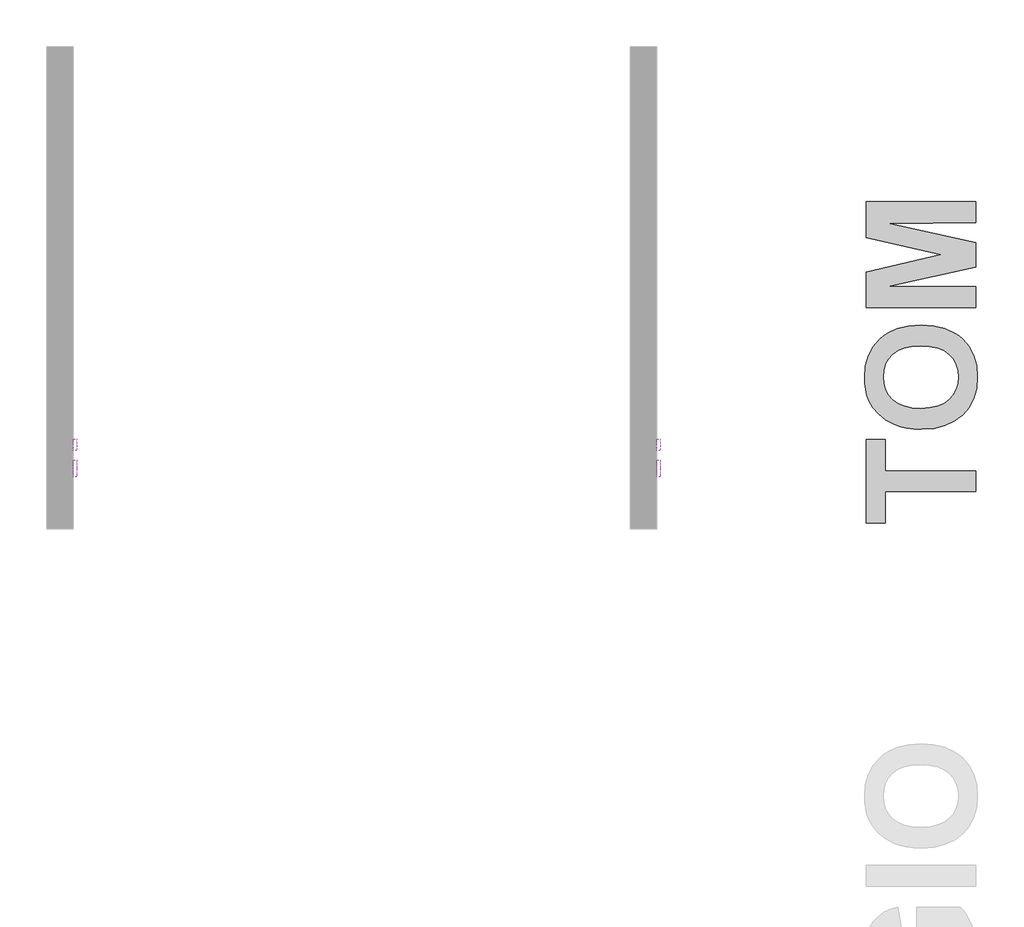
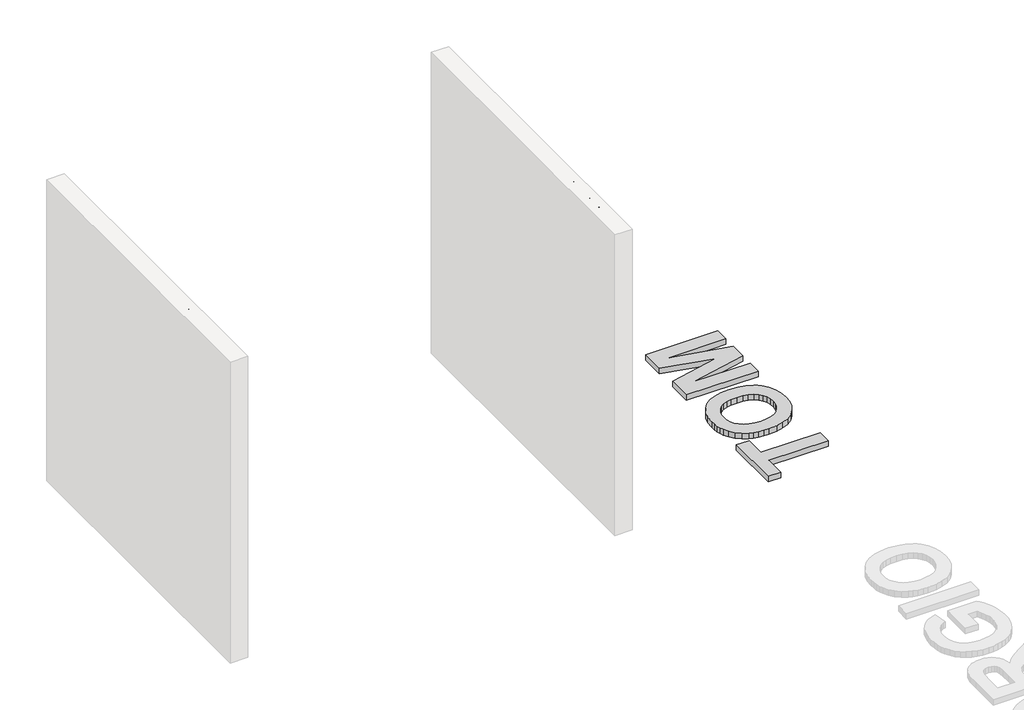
# One storey, part 4 of 6: 5 proxies.
"""IFC4 building model written with IfcOpenShell, lengths in millimetres."""

from ifc_helpers import new_model, si_unit, frame, origin, origin_with_axes, place, context, project, spatial, polyline, outline, extrude, element, save

model = new_model("IFC4")

# Units and contexts
model_context = context("Model", 3, world=origin())
ifc_project = project(units=[si_unit("LENGTHUNIT", "METRE", prefix="MILLI")], contexts=[model_context])

# Site, building, storey
site = spatial("IfcSite", under=ifc_project)
building = spatial("IfcBuilding", under=site)
storey = spatial("IfcBuildingStorey", under=building, Name="PORTOBELLO - SHOWROOM", Elevation=0.0)

# Proxies
placement = place(None, origin())
element("IfcBuildingElementProxy", 1, Name="10mm Arial", ObjectType="10mm Arial", at=placement, inside=storey, context=model_context, shape_type="SweptSolid", body=[
    extrude(outline(polyline([(-3272.0213613, 2565.5156343), (-3272.0213613, 2653.4149057), (-3304.9835881, 2653.4149057), (-3304.9835881, 2665.9719445), (-3226.5020958, 2665.9719445), (-3226.5020958, 2653.4149057), (-3259.4643225, 2653.4149057), (-3259.4643225, 2565.5156343), (-3272.0213613, 2565.5156343)])), frame((-13204.6123775, 0.0, 0.0), z_axis=(1.0, 0.0, 0.0), x_axis=(0.0, 1.0, 0.0)), (0.0, 0.0, 1.0), 20.0),
    extrude(outline(polyline([(-3217.0843167, 2602.4019357), (-3214.3681213, 2620.1890302), (-3206.2195351, 2632.6908867), (-3196.1518312, 2638.8161219), (-3184.0975645, 2640.8578669), (-3170.9059293, 2638.3715978), (-3160.3691758, 2630.9127903), (-3153.4621913, 2619.0700558), (-3151.1598632, 2603.4320053), (-3155.2310906, 2581.0893055), (-3167.0891536, 2568.4464276), (-3184.0975645, 2563.9460045), (-3197.4486152, 2566.4230766), (-3207.973106, 2573.8542929), (-3214.806514, 2585.9453478), (-3217.0843167, 2602.4019357)]), holes=[polyline([(-3204.5272779, 2602.4264612), (-3203.074144, 2591.0619732), (-3198.7147424, 2582.9655036), (-3192.1541802, 2578.1186584), (-3184.0975645, 2576.5030433), (-3176.077737, 2578.1278554), (-3169.5294375, 2583.0022918), (-3165.1700358, 2591.2060603), (-3163.7169019, 2602.8188686), (-3165.1792329, 2613.8522628), (-3169.5662257, 2621.8383678), (-3176.1237222, 2626.6852131), (-3184.0975645, 2628.3008282), (-3192.1541802, 2626.6913445), (-3198.7147424, 2621.8628933), (-3203.074144, 2613.7848178), (-3204.5272779, 2602.4264612)])]), frame((-13204.6123775, 0.0, 0.0), z_axis=(1.0, 0.0, 0.0), x_axis=(0.0, 1.0, 0.0)), (0.0, 0.0, 1.0), 20.0),
    extrude(outline(polyline([(-3137.0331945, 2565.5156343), (-3137.0331945, 2639.2882371), (-3124.4761558, 2639.2882371), (-3124.4761558, 2627.1481313), (-3115.8431916, 2637.0932079), (-3103.555933, 2640.8578669), (-3090.9743688, 2637.0196315), (-3084.0581872, 2626.2652145), (-3074.2602634, 2637.2097038), (-3061.8871657, 2640.8578669), (-3052.4479268, 2639.3403537), (-3045.4673659, 2634.787814), (-3041.1539496, 2627.0776205), (-3039.7161441, 2616.0871459), (-3039.7161441, 2565.5156343), (-3052.2731829, 2565.5156343), (-3052.2731829, 2610.6915433), (-3053.4381425, 2621.1761802), (-3057.6565227, 2626.3387909), (-3064.8302216, 2628.3008282), (-3077.1787939, 2623.2731076), (-3080.8668109, 2616.7309394), (-3082.0961499, 2607.1598762), (-3082.0961499, 2565.5156343), (-3094.6531887, 2565.5156343), (-3094.6531887, 2612.0894949), (-3097.5594565, 2624.2541262), (-3107.0876001, 2628.3008282), (-3116.3827519, 2625.6030269), (-3122.5631694, 2617.7058267), (-3124.4761558, 2602.7207668), (-3124.4761558, 2565.5156343), (-3137.0331945, 2565.5156343)])), frame((-13204.6123775, 0.0, 0.0), z_axis=(1.0, 0.0, 0.0), x_axis=(0.0, 1.0, 0.0)), (0.0, 0.0, 1.0), 20.0),
])
element("IfcBuildingElementProxy", 2, Name="10mm Arial", ObjectType="10mm Arial", at=placement, inside=storey, context=model_context, shape_type="SweptSolid", body=[
    extrude(outline(polyline([(-3272.0213613, 2565.5156343), (-3272.0213613, 2653.4149057), (-3304.9835881, 2653.4149057), (-3304.9835881, 2665.9719445), (-3226.5020958, 2665.9719445), (-3226.5020958, 2653.4149057), (-3259.4643225, 2653.4149057), (-3259.4643225, 2565.5156343), (-3272.0213613, 2565.5156343)])), frame((-9940.3623775, 0.0, 0.0), z_axis=(1.0, 0.0, 0.0), x_axis=(0.0, 1.0, 0.0)), (0.0, 0.0, 1.0), 20.0),
    extrude(outline(polyline([(-3217.0843167, 2602.4019357), (-3214.3681213, 2620.1890302), (-3206.2195351, 2632.6908867), (-3196.1518312, 2638.8161219), (-3184.0975645, 2640.8578669), (-3170.9059293, 2638.3715978), (-3160.3691758, 2630.9127903), (-3153.4621913, 2619.0700558), (-3151.1598632, 2603.4320053), (-3155.2310906, 2581.0893055), (-3167.0891536, 2568.4464276), (-3184.0975645, 2563.9460045), (-3197.4486152, 2566.4230766), (-3207.973106, 2573.8542929), (-3214.806514, 2585.9453478), (-3217.0843167, 2602.4019357)]), holes=[polyline([(-3204.5272779, 2602.4264612), (-3203.074144, 2591.0619732), (-3198.7147424, 2582.9655036), (-3192.1541802, 2578.1186584), (-3184.0975645, 2576.5030433), (-3176.077737, 2578.1278554), (-3169.5294375, 2583.0022918), (-3165.1700358, 2591.2060603), (-3163.7169019, 2602.8188686), (-3165.1792329, 2613.8522628), (-3169.5662257, 2621.8383678), (-3176.1237222, 2626.6852131), (-3184.0975645, 2628.3008282), (-3192.1541802, 2626.6913445), (-3198.7147424, 2621.8628933), (-3203.074144, 2613.7848178), (-3204.5272779, 2602.4264612)])]), frame((-9940.3623775, 0.0, 0.0), z_axis=(1.0, 0.0, 0.0), x_axis=(0.0, 1.0, 0.0)), (0.0, 0.0, 1.0), 20.0),
    extrude(outline(polyline([(-3137.0331945, 2565.5156343), (-3137.0331945, 2639.2882371), (-3124.4761558, 2639.2882371), (-3124.4761558, 2627.1481313), (-3115.8431916, 2637.0932079), (-3103.555933, 2640.8578669), (-3090.9743688, 2637.0196315), (-3084.0581872, 2626.2652145), (-3074.2602634, 2637.2097038), (-3061.8871657, 2640.8578669), (-3052.4479268, 2639.3403537), (-3045.4673659, 2634.787814), (-3041.1539496, 2627.0776205), (-3039.7161441, 2616.0871459), (-3039.7161441, 2565.5156343), (-3052.2731829, 2565.5156343), (-3052.2731829, 2610.6915433), (-3053.4381425, 2621.1761802), (-3057.6565227, 2626.3387909), (-3064.8302216, 2628.3008282), (-3077.1787939, 2623.2731076), (-3080.8668109, 2616.7309394), (-3082.0961499, 2607.1598762), (-3082.0961499, 2565.5156343), (-3094.6531887, 2565.5156343), (-3094.6531887, 2612.0894949), (-3097.5594565, 2624.2541262), (-3107.0876001, 2628.3008282), (-3116.3827519, 2625.6030269), (-3122.5631694, 2617.7058267), (-3124.4761558, 2602.7207668), (-3124.4761558, 2565.5156343), (-3137.0331945, 2565.5156343)])), frame((-9940.3623775, 0.0, 0.0), z_axis=(1.0, 0.0, 0.0), x_axis=(0.0, 1.0, 0.0)), (0.0, 0.0, 1.0), 20.0),
])
element("IfcBuildingElementProxy", 3, Name="10mm Arial Narrow", ObjectType="10mm Arial Narrow", at=placement, inside=storey, context=model_context, shape_type="SweptSolid", body=[
    extrude(outline(polyline([(-2987.0669319, 2565.5156343), (-2987.0669319, 2666.2342381), (-2955.7700472, 2666.2342381), (-2939.4743457, 2664.3559174), (-2928.0013596, 2654.8754742), (-2923.7116811, 2637.8563654), (-2925.4979895, 2625.7805398), (-2930.8569147, 2616.1541461), (-2940.6007035, 2609.8528876), (-2955.5416028, 2607.7524682), (-2977.3199702, 2607.7524682), (-2977.3199702, 2565.5156343), (-2987.0669319, 2565.5156343)]), holes=[polyline([(-2977.3199702, 2619.1239234), (-2954.3486153, 2619.1239234), (-2938.4844199, 2623.6547376), (-2933.4586428, 2637.3233284), (-2935.9334573, 2647.4891048), (-2941.9110861, 2653.2890546), (-2954.5770597, 2654.8627828), (-2977.3199702, 2654.8627828), (-2977.3199702, 2619.1239234)])]), frame((-13204.6123775, 0.0, 0.0), z_axis=(1.0, 0.0, 0.0), x_axis=(0.0, 1.0, 0.0)), (0.0, 0.0, 1.0), 20.0),
    extrude(outline(polyline([(-2915.5892131, 2602.0667405), (-2913.6347442, 2618.6575161), (-2907.7713376, 2630.6096009), (-2898.9127709, 2637.8341555), (-2887.9728217, 2640.2423403), (-2877.1597861, 2637.8341555), (-2868.2758367, 2630.6096009), (-2862.336282, 2618.8478864), (-2860.3564304, 2602.8282219), (-2862.3013807, 2585.6663353), (-2868.1362318, 2573.5238802), (-2876.98528, 2566.2993256), (-2887.9728217, 2563.8911407), (-2898.8334499, 2566.3056713), (-2907.7078808, 2573.5492629), (-2913.61888, 2585.5076934), (-2915.5892131, 2602.0667405)]), holes=[polyline([(-2905.8422514, 2602.0921233), (-2904.5382146, 2589.5403719), (-2900.626104, 2580.6691138), (-2894.7849072, 2575.3958552), (-2887.6936119, 2573.6381024), (-2880.9735387, 2575.4117194), (-2875.2814654, 2580.7325706), (-2871.3979104, 2589.6196928), (-2870.103392, 2602.0921233), (-2871.4074289, 2614.6058006), (-2875.3195395, 2623.4643673), (-2881.1607362, 2628.7376258), (-2888.2520316, 2630.4953787), (-2895.0196973, 2628.7281073), (-2900.7022521, 2623.4262932), (-2904.5572516, 2614.558208), (-2905.8422514, 2602.0921233)])]), frame((-13204.6123775, 0.0, 0.0), z_axis=(1.0, 0.0, 0.0), x_axis=(0.0, 1.0, 0.0)), (0.0, 0.0, 1.0), 20.0),
    extrude(outline(polyline([(-2788.8787116, 2573.6381024), (-2787.254218, 2563.8911407), (-2794.6152046, 2563.8911407), (-2802.889969, 2566.0105972), (-2807.2050301, 2571.8105471), (-2808.3726349, 2586.4563723), (-2808.3726349, 2628.8708851), (-2816.4951029, 2628.8708851), (-2816.4951029, 2632.1198723), (-2818.1195965, 2627.2463915), (-2825.6836449, 2628.8708851), (-2831.7628046, 2626.5483669), (-2835.6336683, 2620.0630838), (-2837.6135198, 2604.6557772), (-2837.6135198, 2565.5156343), (-2847.3604815, 2565.5156343), (-2847.3604815, 2638.6178467), (-2837.6135198, 2638.6178467), (-2837.6135198, 2628.9216505), (-2831.3693725, 2638.0086616), (-2824.972929, 2640.2423403), (-2816.4951029, 2638.6178467), (-2808.3726349, 2638.6178467), (-2808.3726349, 2654.8627828), (-2798.6256732, 2662.9852509), (-2798.6256732, 2638.6178467), (-2788.8787116, 2638.6178467), (-2788.8787116, 2628.8708851), (-2798.6256732, 2628.8708851), (-2798.6256732, 2584.2226936), (-2797.762661, 2576.2271391), (-2793.1430073, 2573.6381024), (-2788.8787116, 2573.6381024)])), frame((-13204.6123775, 0.0, 0.0), z_axis=(1.0, 0.0, 0.0), x_axis=(0.0, 1.0, 0.0)), (0.0, 0.0, 1.0), 20.0),
    extrude(outline(polyline([(-2782.3807371, 2602.0667405), (-2780.4262683, 2618.6575161), (-2774.5628617, 2630.6096009), (-2765.7042949, 2637.8341555), (-2754.7643458, 2640.2423403), (-2743.9513102, 2637.8341555), (-2735.0673608, 2630.6096009), (-2729.127806, 2618.8478864), (-2727.1479544, 2602.8282219), (-2729.0929048, 2585.6663353), (-2734.9277559, 2573.5238802), (-2743.7768041, 2566.2993256), (-2754.7643458, 2563.8911407), (-2765.624974, 2566.3056713), (-2774.4994049, 2573.5492629), (-2780.4104041, 2585.5076934), (-2782.3807371, 2602.0667405)]), holes=[polyline([(-2772.6337755, 2602.0921233), (-2771.3297386, 2589.5403719), (-2767.417628, 2580.6691138), (-2761.5764313, 2575.3958552), (-2754.485136, 2573.6381024), (-2747.7650628, 2575.4117194), (-2742.0729895, 2580.7325706), (-2738.1894344, 2589.6196928), (-2736.8949161, 2602.0921233), (-2738.198953, 2614.6058006), (-2742.1110635, 2623.4643673), (-2747.9522603, 2628.7376258), (-2755.0435556, 2630.4953787), (-2761.8112214, 2628.7281073), (-2767.4937762, 2623.4262932), (-2771.3487757, 2614.558208), (-2772.6337755, 2602.0921233)])]), frame((-13204.6123775, 0.0, 0.0), z_axis=(1.0, 0.0, 0.0), x_axis=(0.0, 1.0, 0.0)), (0.0, 0.0, 1.0), 20.0),
    extrude(outline(polyline([(-2704.4050439, 2565.5156343), (-2714.1520056, 2565.5156343), (-2714.1520056, 2666.2342381), (-2704.4050439, 2666.2342381), (-2704.4050439, 2630.825354), (-2697.0059832, 2637.9071308), (-2687.8047498, 2640.2423403), (-2674.9230232, 2636.0415014), (-2665.6456417, 2623.312071), (-2662.1682101, 2602.6251602), (-2664.1004691, 2586.1708167), (-2669.8972461, 2573.9680776), (-2678.2703684, 2566.410375), (-2687.9316634, 2563.8911407), (-2697.2725017, 2566.5055601), (-2704.4050439, 2574.2726702), (-2704.4050439, 2565.5156343)]), holes=[polyline([(-2704.4050439, 2602.6251602), (-2702.3236615, 2585.377607), (-2696.4348721, 2576.6459538), (-2687.9824288, 2573.6381024), (-2682.0397012, 2575.4275836), (-2676.8013439, 2580.7960273), (-2671.9151717, 2602.2190368), (-2676.6236649, 2623.6547376), (-2681.8683679, 2628.7852184), (-2688.1854905, 2630.4953787), (-2694.1631194, 2628.7058975), (-2699.455415, 2623.3374537), (-2704.4050439, 2602.6251602)])]), frame((-13204.6123775, 0.0, 0.0), z_axis=(1.0, 0.0, 0.0), x_axis=(0.0, 1.0, 0.0)), (0.0, 0.0, 1.0), 20.0),
    extrude(outline(polyline([(-2610.1844146, 2588.2585449), (-2600.4374529, 2586.6340513), (-2604.1369833, 2576.7474847), (-2609.9559702, 2569.6276338), (-2617.6596235, 2565.325264), (-2627.0131531, 2563.8911407), (-2638.6067071, 2566.3056713), (-2647.7508293, 2573.5492629), (-2653.6903841, 2585.3553971), (-2655.6702356, 2601.4575554), (-2653.6808655, 2618.1244791), (-2647.7127552, 2630.3050083), (-2638.6987194, 2637.7580073), (-2627.5715728, 2640.2423403), (-2616.8886236, 2637.843674), (-2608.1411062, 2630.647675), (-2602.3062552, 2618.9081704), (-2600.3613048, 2602.8789873), (-2600.4374529, 2599.6300001), (-2645.923274, 2599.6300001), (-2639.9202625, 2580.1868422), (-2633.9902262, 2575.2752873), (-2626.8862395, 2573.6381024), (-2616.7077717, 2577.293213), (-2610.1844146, 2588.2585449)]), holes=[polyline([(-2645.2633235, 2609.3769618), (-2610.1844146, 2609.3769618), (-2614.4487103, 2623.6420463), (-2620.2740429, 2628.7820456), (-2627.4954246, 2630.4953787), (-2639.7045094, 2624.7842684), (-2645.2633235, 2609.3769618)])]), frame((-13204.6123775, 0.0, 0.0), z_axis=(1.0, 0.0, 0.0), x_axis=(0.0, 1.0, 0.0)), (0.0, 0.0, 1.0), 20.0),
    extrude(outline(polyline([(-13184.6123775, -2577.6945424), (-13184.6123775, -2587.4415041), (-13204.6123775, -2587.4415041), (-13204.6123775, -2577.6945424), (-13184.6123775, -2577.6945424)])), frame((0.0, 0.0, 2565.5156343), z_axis=(0.0, 0.0, 1.0), x_axis=(1.0, 0.0, 0.0)), (0.0, 0.0, 1.0), 100.7186038),
    extrude(outline(polyline([(-13184.6123775, -2551.7026447), (-13184.6123775, -2561.4496063), (-13204.6123775, -2561.4496063), (-13204.6123775, -2551.7026447), (-13184.6123775, -2551.7026447)])), frame((0.0, 0.0, 2565.5156343), z_axis=(0.0, 0.0, 1.0), x_axis=(1.0, 0.0, 0.0)), (0.0, 0.0, 1.0), 100.7186038),
    extrude(outline(polyline([(-2540.3311894, 2602.0667405), (-2538.3767205, 2618.6575161), (-2532.5133139, 2630.6096009), (-2523.6547472, 2637.8341555), (-2512.7147981, 2640.2423403), (-2501.9017625, 2637.8341555), (-2493.0178131, 2630.6096009), (-2487.0782583, 2618.8478864), (-2485.0984067, 2602.8282219), (-2487.0433571, 2585.6663353), (-2492.8782081, 2573.5238802), (-2501.7272563, 2566.2993256), (-2512.7147981, 2563.8911407), (-2523.5754262, 2566.3056713), (-2532.4498571, 2573.5492629), (-2538.3608563, 2585.5076934), (-2540.3311894, 2602.0667405)]), holes=[polyline([(-2530.5842278, 2602.0921233), (-2529.2801909, 2589.5403719), (-2525.3680803, 2580.6691138), (-2519.5268836, 2575.3958552), (-2512.4355882, 2573.6381024), (-2505.7155151, 2575.4117194), (-2500.0234417, 2580.7325706), (-2496.1398867, 2589.6196928), (-2494.8453684, 2602.0921233), (-2496.1494052, 2614.6058006), (-2500.0615158, 2623.4643673), (-2505.9027126, 2628.7376258), (-2512.9940079, 2630.4953787), (-2519.7616737, 2628.7281073), (-2525.4442285, 2623.4262932), (-2529.2992279, 2614.558208), (-2530.5842278, 2602.0921233)])]), frame((-13204.6123775, 0.0, 0.0), z_axis=(1.0, 0.0, 0.0), x_axis=(0.0, 1.0, 0.0)), (0.0, 0.0, 1.0), 20.0),
])
element("IfcBuildingElementProxy", 4, Name="10mm Arial Narrow", ObjectType="10mm Arial Narrow", at=placement, inside=storey, context=model_context, shape_type="SweptSolid", body=[
    extrude(outline(polyline([(-2987.0669319, 2565.5156343), (-2987.0669319, 2666.2342381), (-2955.7700472, 2666.2342381), (-2939.4743457, 2664.3559174), (-2928.0013596, 2654.8754742), (-2923.7116811, 2637.8563654), (-2925.4979895, 2625.7805398), (-2930.8569147, 2616.1541461), (-2940.6007035, 2609.8528876), (-2955.5416028, 2607.7524682), (-2977.3199702, 2607.7524682), (-2977.3199702, 2565.5156343), (-2987.0669319, 2565.5156343)]), holes=[polyline([(-2977.3199702, 2619.1239234), (-2954.3486153, 2619.1239234), (-2938.4844199, 2623.6547376), (-2933.4586428, 2637.3233284), (-2935.9334573, 2647.4891048), (-2941.9110861, 2653.2890546), (-2954.5770597, 2654.8627828), (-2977.3199702, 2654.8627828), (-2977.3199702, 2619.1239234)])]), frame((-9940.3623775, 0.0, 0.0), z_axis=(1.0, 0.0, 0.0), x_axis=(0.0, 1.0, 0.0)), (0.0, 0.0, 1.0), 20.0),
    extrude(outline(polyline([(-2915.5892131, 2602.0667405), (-2913.6347442, 2618.6575161), (-2907.7713376, 2630.6096009), (-2898.9127709, 2637.8341555), (-2887.9728217, 2640.2423403), (-2877.1597861, 2637.8341555), (-2868.2758367, 2630.6096009), (-2862.336282, 2618.8478864), (-2860.3564304, 2602.8282219), (-2862.3013807, 2585.6663353), (-2868.1362318, 2573.5238802), (-2876.98528, 2566.2993256), (-2887.9728217, 2563.8911407), (-2898.8334499, 2566.3056713), (-2907.7078808, 2573.5492629), (-2913.61888, 2585.5076934), (-2915.5892131, 2602.0667405)]), holes=[polyline([(-2905.8422514, 2602.0921233), (-2904.5382146, 2589.5403719), (-2900.626104, 2580.6691138), (-2894.7849072, 2575.3958552), (-2887.6936119, 2573.6381024), (-2880.9735387, 2575.4117194), (-2875.2814654, 2580.7325706), (-2871.3979104, 2589.6196928), (-2870.103392, 2602.0921233), (-2871.4074289, 2614.6058006), (-2875.3195395, 2623.4643673), (-2881.1607362, 2628.7376258), (-2888.2520316, 2630.4953787), (-2895.0196973, 2628.7281073), (-2900.7022521, 2623.4262932), (-2904.5572516, 2614.558208), (-2905.8422514, 2602.0921233)])]), frame((-9940.3623775, 0.0, 0.0), z_axis=(1.0, 0.0, 0.0), x_axis=(0.0, 1.0, 0.0)), (0.0, 0.0, 1.0), 20.0),
    extrude(outline(polyline([(-2788.8787116, 2573.6381024), (-2787.254218, 2563.8911407), (-2794.6152046, 2563.8911407), (-2802.889969, 2566.0105972), (-2807.2050301, 2571.8105471), (-2808.3726349, 2586.4563723), (-2808.3726349, 2628.8708851), (-2816.4951029, 2628.8708851), (-2816.4951029, 2632.1198723), (-2818.1195965, 2627.2463915), (-2825.6836449, 2628.8708851), (-2831.7628046, 2626.5483669), (-2835.6336683, 2620.0630838), (-2837.6135198, 2604.6557772), (-2837.6135198, 2565.5156343), (-2847.3604815, 2565.5156343), (-2847.3604815, 2638.6178467), (-2837.6135198, 2638.6178467), (-2837.6135198, 2628.9216505), (-2831.3693725, 2638.0086616), (-2824.972929, 2640.2423403), (-2816.4951029, 2638.6178467), (-2808.3726349, 2638.6178467), (-2808.3726349, 2654.8627828), (-2798.6256732, 2662.9852509), (-2798.6256732, 2638.6178467), (-2788.8787116, 2638.6178467), (-2788.8787116, 2628.8708851), (-2798.6256732, 2628.8708851), (-2798.6256732, 2584.2226936), (-2797.762661, 2576.2271391), (-2793.1430073, 2573.6381024), (-2788.8787116, 2573.6381024)])), frame((-9940.3623775, 0.0, 0.0), z_axis=(1.0, 0.0, 0.0), x_axis=(0.0, 1.0, 0.0)), (0.0, 0.0, 1.0), 20.0),
    extrude(outline(polyline([(-2782.3807371, 2602.0667405), (-2780.4262683, 2618.6575161), (-2774.5628617, 2630.6096009), (-2765.7042949, 2637.8341555), (-2754.7643458, 2640.2423403), (-2743.9513102, 2637.8341555), (-2735.0673608, 2630.6096009), (-2729.127806, 2618.8478864), (-2727.1479544, 2602.8282219), (-2729.0929048, 2585.6663353), (-2734.9277559, 2573.5238802), (-2743.7768041, 2566.2993256), (-2754.7643458, 2563.8911407), (-2765.624974, 2566.3056713), (-2774.4994049, 2573.5492629), (-2780.4104041, 2585.5076934), (-2782.3807371, 2602.0667405)]), holes=[polyline([(-2772.6337755, 2602.0921233), (-2771.3297386, 2589.5403719), (-2767.417628, 2580.6691138), (-2761.5764313, 2575.3958552), (-2754.485136, 2573.6381024), (-2747.7650628, 2575.4117194), (-2742.0729895, 2580.7325706), (-2738.1894344, 2589.6196928), (-2736.8949161, 2602.0921233), (-2738.198953, 2614.6058006), (-2742.1110635, 2623.4643673), (-2747.9522603, 2628.7376258), (-2755.0435556, 2630.4953787), (-2761.8112214, 2628.7281073), (-2767.4937762, 2623.4262932), (-2771.3487757, 2614.558208), (-2772.6337755, 2602.0921233)])]), frame((-9940.3623775, 0.0, 0.0), z_axis=(1.0, 0.0, 0.0), x_axis=(0.0, 1.0, 0.0)), (0.0, 0.0, 1.0), 20.0),
    extrude(outline(polyline([(-2704.4050439, 2565.5156343), (-2714.1520056, 2565.5156343), (-2714.1520056, 2666.2342381), (-2704.4050439, 2666.2342381), (-2704.4050439, 2630.825354), (-2697.0059832, 2637.9071308), (-2687.8047498, 2640.2423403), (-2674.9230232, 2636.0415014), (-2665.6456417, 2623.312071), (-2662.1682101, 2602.6251602), (-2664.1004691, 2586.1708167), (-2669.8972461, 2573.9680776), (-2678.2703684, 2566.410375), (-2687.9316634, 2563.8911407), (-2697.2725017, 2566.5055601), (-2704.4050439, 2574.2726702), (-2704.4050439, 2565.5156343)]), holes=[polyline([(-2704.4050439, 2602.6251602), (-2702.3236615, 2585.377607), (-2696.4348721, 2576.6459538), (-2687.9824288, 2573.6381024), (-2682.0397012, 2575.4275836), (-2676.8013439, 2580.7960273), (-2671.9151717, 2602.2190368), (-2676.6236649, 2623.6547376), (-2681.8683679, 2628.7852184), (-2688.1854905, 2630.4953787), (-2694.1631194, 2628.7058975), (-2699.455415, 2623.3374537), (-2704.4050439, 2602.6251602)])]), frame((-9940.3623775, 0.0, 0.0), z_axis=(1.0, 0.0, 0.0), x_axis=(0.0, 1.0, 0.0)), (0.0, 0.0, 1.0), 20.0),
    extrude(outline(polyline([(-2610.1844146, 2588.2585449), (-2600.4374529, 2586.6340513), (-2604.1369833, 2576.7474847), (-2609.9559702, 2569.6276338), (-2617.6596235, 2565.325264), (-2627.0131531, 2563.8911407), (-2638.6067071, 2566.3056713), (-2647.7508293, 2573.5492629), (-2653.6903841, 2585.3553971), (-2655.6702356, 2601.4575554), (-2653.6808655, 2618.1244791), (-2647.7127552, 2630.3050083), (-2638.6987194, 2637.7580073), (-2627.5715728, 2640.2423403), (-2616.8886236, 2637.843674), (-2608.1411062, 2630.647675), (-2602.3062552, 2618.9081704), (-2600.3613048, 2602.8789873), (-2600.4374529, 2599.6300001), (-2645.923274, 2599.6300001), (-2639.9202625, 2580.1868422), (-2633.9902262, 2575.2752873), (-2626.8862395, 2573.6381024), (-2616.7077717, 2577.293213), (-2610.1844146, 2588.2585449)]), holes=[polyline([(-2645.2633235, 2609.3769618), (-2610.1844146, 2609.3769618), (-2614.4487103, 2623.6420463), (-2620.2740429, 2628.7820456), (-2627.4954246, 2630.4953787), (-2639.7045094, 2624.7842684), (-2645.2633235, 2609.3769618)])]), frame((-9940.3623775, 0.0, 0.0), z_axis=(1.0, 0.0, 0.0), x_axis=(0.0, 1.0, 0.0)), (0.0, 0.0, 1.0), 20.0),
    extrude(outline(polyline([(-9920.3623775, -2577.6945424), (-9920.3623775, -2587.4415041), (-9940.3623775, -2587.4415041), (-9940.3623775, -2577.6945424), (-9920.3623775, -2577.6945424)])), frame((0.0, 0.0, 2565.5156343), z_axis=(0.0, 0.0, 1.0), x_axis=(1.0, 0.0, 0.0)), (0.0, 0.0, 1.0), 100.7186038),
    extrude(outline(polyline([(-9920.3623775, -2551.7026447), (-9920.3623775, -2561.4496063), (-9940.3623775, -2561.4496063), (-9940.3623775, -2551.7026447), (-9920.3623775, -2551.7026447)])), frame((0.0, 0.0, 2565.5156343), z_axis=(0.0, 0.0, 1.0), x_axis=(1.0, 0.0, 0.0)), (0.0, 0.0, 1.0), 100.7186038),
    extrude(outline(polyline([(-2540.3311894, 2602.0667405), (-2538.3767205, 2618.6575161), (-2532.5133139, 2630.6096009), (-2523.6547472, 2637.8341555), (-2512.7147981, 2640.2423403), (-2501.9017625, 2637.8341555), (-2493.0178131, 2630.6096009), (-2487.0782583, 2618.8478864), (-2485.0984067, 2602.8282219), (-2487.0433571, 2585.6663353), (-2492.8782081, 2573.5238802), (-2501.7272563, 2566.2993256), (-2512.7147981, 2563.8911407), (-2523.5754262, 2566.3056713), (-2532.4498571, 2573.5492629), (-2538.3608563, 2585.5076934), (-2540.3311894, 2602.0667405)]), holes=[polyline([(-2530.5842278, 2602.0921233), (-2529.2801909, 2589.5403719), (-2525.3680803, 2580.6691138), (-2519.5268836, 2575.3958552), (-2512.4355882, 2573.6381024), (-2505.7155151, 2575.4117194), (-2500.0234417, 2580.7325706), (-2496.1398867, 2589.6196928), (-2494.8453684, 2602.0921233), (-2496.1494052, 2614.6058006), (-2500.0615158, 2623.4643673), (-2505.9027126, 2628.7376258), (-2512.9940079, 2630.4953787), (-2519.7616737, 2628.7281073), (-2525.4442285, 2623.4262932), (-2529.2992279, 2614.558208), (-2530.5842278, 2602.0921233)])]), frame((-9940.3623775, 0.0, 0.0), z_axis=(1.0, 0.0, 0.0), x_axis=(0.0, 1.0, 0.0)), (0.0, 0.0, 1.0), 20.0),
])
element("IfcBuildingElementProxy", 5, Name="600mm Arial", ObjectType="600mm Arial", at=placement, inside=storey, context=model_context, shape_type="SweptSolid", body=[
    extrude(outline(polyline([(-8157.0633411, -3217.3177452), (-8662.334663, -3217.3177452), (-8662.334663, -3392.2193566), (-8769.2189811, -3392.2193566), (-8769.2189811, -2925.8150595), (-8662.334663, -2925.8150595), (-8662.334663, -3100.7166709), (-8157.0633411, -3100.7166709), (-8157.0633411, -3217.3177452)])), origin_with_axes(), (0.0, 0.0, 1.0), 50.0),
    extrude(outline(polyline([(-8459.3455532, -2867.5145223), (-8504.1527043, -2865.7970097), (-8545.2022036, -2860.644472), (-8582.4940511, -2852.0569092), (-8616.0282468, -2840.0343212), (-8660.2660567, -2815.7993649), (-8699.7593567, -2784.087061), (-8732.0789579, -2746.9470378), (-8754.7956711, -2706.4289236), (-8765.35695, -2677.259677), (-8772.9007207, -2645.9269339), (-8777.4269831, -2612.4306943), (-8778.9357373, -2576.7709582), (-8773.7025429, -2513.6689771), (-8758.0029598, -2457.2093098), (-8731.8369879, -2407.3919562), (-8695.2046273, -2364.2169165), (-8673.250594, -2345.535409), (-8649.2540493, -2329.3447691), (-8595.1334253, -2304.4360923), (-8532.8427554, -2289.4908863), (-8462.3820395, -2284.5091509), (-8392.4005191, -2289.4529302), (-8330.4846654, -2304.284268), (-8276.6344786, -2329.0031644), (-8252.7340101, -2345.070447), (-8230.8499584, -2363.6096193), (-8194.3172325, -2406.4999884), (-8168.2224283, -2456.0706274), (-8152.5655458, -2512.3215363), (-8147.3465849, -2575.252715), (-8152.5418232, -2638.8481252), (-8168.1275381, -2695.573485), (-8194.1037296, -2745.4287946), (-8230.4703976, -2788.414054), (-8275.9465246, -2823.0205089), (-8329.2510929, -2847.7394052), (-8390.3841024, -2862.570743), (-8459.3455532, -2867.5145223)]), holes=[polyline([(-8463.596634, -2750.913448), (-8415.1741664, -2747.8152831), (-8372.9954738, -2738.5207883), (-8337.0605561, -2723.0299636), (-8307.3694134, -2701.342809), (-8284.1213151, -2674.8826775), (-8267.5155306, -2645.0729221), (-8257.5520599, -2611.9135427), (-8254.230903, -2575.4045393), (-8257.5283374, -2538.9334921), (-8267.4206404, -2505.8879809), (-8283.9078122, -2476.2680059), (-8306.9898526, -2450.0735669), (-8336.6667618, -2428.6521049), (-8372.9385397, -2413.3510606), (-8415.8051862, -2404.170434), (-8465.2667015, -2401.1102252), (-8514.0402628, -2404.0897774), (-8556.2094665, -2413.028434), (-8591.7743124, -2427.9261949), (-8620.7348005, -2448.7830602), (-8643.1858212, -2474.5742158), (-8659.2222645, -2504.2748476), (-8668.8441305, -2537.8849554), (-8672.0514192, -2575.4045393), (-8668.8061744, -2612.9620794), (-8659.0704402, -2646.6860555), (-8642.8442165, -2676.5764676), (-8620.1275033, -2702.6333157), (-8590.8728555, -2723.7558736), (-8555.032828, -2738.843415), (-8512.6074209, -2747.8959398), (-8463.596634, -2750.913448)])]), origin_with_axes(), (0.0, 0.0, 1.0), 50.0),
    extrude(outline(polyline([(-8157.0633411, -2187.341589), (-8769.2189811, -2187.341589), (-8769.2189811, -1987.5407898), (-8351.7021135, -1890.9805252), (-8769.2189811, -1794.4202606), (-8769.2189811, -1594.6194614), (-8157.0633411, -1594.6194614), (-8157.0633411, -1711.2205357), (-8638.9537184, -1716.0789138), (-8157.0633411, -1822.6595832), (-8157.0633411, -1959.1496429), (-8638.9537184, -2065.8821366), (-8157.0633411, -2070.7405147), (-8157.0633411, -2187.341589)])), origin_with_axes(), (0.0, 0.0, 1.0), 50.0),
])

save(model, "model.ifc")
